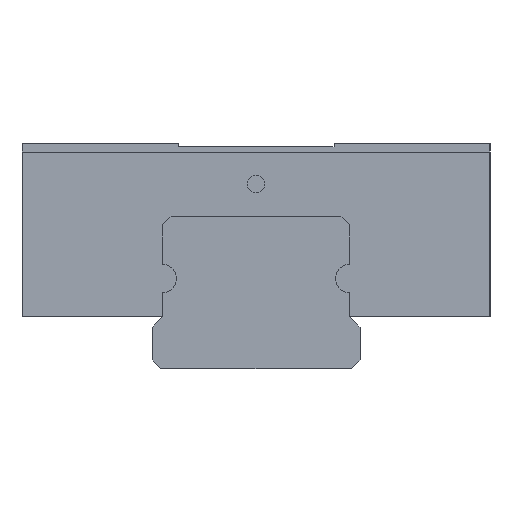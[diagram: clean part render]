
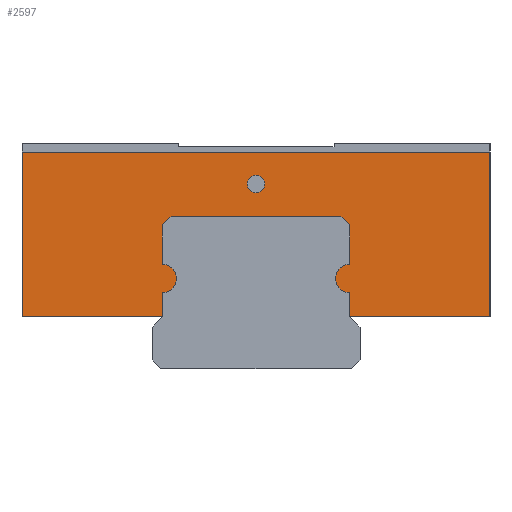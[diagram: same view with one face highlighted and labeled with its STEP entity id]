
A CAD part, left-side view. The second image highlights one B-rep face of the part: STEP entity #2597.
In plain terms, the highlighted planar face has unit normal (-1, 0, 0).
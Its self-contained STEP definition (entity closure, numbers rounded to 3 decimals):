
#1813=CARTESIAN_POINT('',(43.56,0.5,10.65));
#1814=VERTEX_POINT('',#1813);
#1815=CARTESIAN_POINT('',(43.56,0.0,10.65));
#1816=DIRECTION('',(1.0,0.0,0.0));
#1817=DIRECTION('',(0.0,-1.0,0.0));
#1818=AXIS2_PLACEMENT_3D('',#1815,#1816,#1817);
#1819=CIRCLE('',#1818,0.5);
#1820=EDGE_CURVE('',#1814,#1814,#1819,.T.);
#2086=CARTESIAN_POINT('',(43.56,13.5,12.5));
#2087=VERTEX_POINT('',#2086);
#2094=CARTESIAN_POINT('',(43.56,-13.5,12.5));
#2095=VERTEX_POINT('',#2094);
#2096=CARTESIAN_POINT('',(43.56,-13.5,12.5));
#2097=DIRECTION('',(0.0,1.0,0.0));
#2098=VECTOR('',#2097,27.);
#2099=LINE('',#2096,#2098);
#2100=EDGE_CURVE('',#2095,#2087,#2099,.T.);
#2155=CARTESIAN_POINT('',(43.56,13.5,3.));
#2156=VERTEX_POINT('',#2155);
#2163=CARTESIAN_POINT('',(43.56,13.5,12.5));
#2164=DIRECTION('',(0.0,0.0,-1.0));
#2165=VECTOR('',#2164,9.5);
#2166=LINE('',#2163,#2165);
#2167=EDGE_CURVE('',#2087,#2156,#2166,.T.);
#2190=CARTESIAN_POINT('',(43.56,5.4,3.));
#2191=VERTEX_POINT('',#2190);
#2198=CARTESIAN_POINT('',(43.56,13.5,3.));
#2199=DIRECTION('',(0.0,-1.0,0.0));
#2200=VECTOR('',#2199,8.1);
#2201=LINE('',#2198,#2200);
#2202=EDGE_CURVE('',#2156,#2191,#2201,.T.);
#2221=CARTESIAN_POINT('',(43.56,5.4,4.387));
#2222=VERTEX_POINT('',#2221);
#2229=CARTESIAN_POINT('',(43.56,5.4,3.));
#2230=DIRECTION('',(0.0,0.0,1.0));
#2231=VECTOR('',#2230,1.387);
#2232=LINE('',#2229,#2231);
#2233=EDGE_CURVE('',#2191,#2222,#2232,.T.);
#2253=CARTESIAN_POINT('',(43.56,5.4,6.012));
#2254=VERTEX_POINT('',#2253);
#2261=CARTESIAN_POINT('',(43.56,5.4,5.2));
#2262=DIRECTION('',(-1.0,0.0,0.0));
#2263=DIRECTION('',(0.0,0.0,-1.0));
#2264=AXIS2_PLACEMENT_3D('',#2261,#2262,#2263);
#2265=CIRCLE('',#2264,0.813);
#2266=EDGE_CURVE('',#2222,#2254,#2265,.T.);
#2285=CARTESIAN_POINT('',(43.56,5.4,8.3));
#2286=VERTEX_POINT('',#2285);
#2293=CARTESIAN_POINT('',(43.56,5.4,6.012));
#2294=DIRECTION('',(0.0,0.0,1.0));
#2295=VECTOR('',#2294,2.287);
#2296=LINE('',#2293,#2295);
#2297=EDGE_CURVE('',#2254,#2286,#2296,.T.);
#2316=CARTESIAN_POINT('',(43.56,4.9,8.8));
#2317=VERTEX_POINT('',#2316);
#2324=CARTESIAN_POINT('',(43.56,5.4,8.3));
#2325=DIRECTION('',(0.0,-0.707,0.707));
#2326=VECTOR('',#2325,0.707);
#2327=LINE('',#2324,#2326);
#2328=EDGE_CURVE('',#2286,#2317,#2327,.T.);
#2347=CARTESIAN_POINT('',(43.56,-4.9,8.8));
#2348=VERTEX_POINT('',#2347);
#2355=CARTESIAN_POINT('',(43.56,4.9,8.8));
#2356=DIRECTION('',(0.0,-1.0,0.0));
#2357=VECTOR('',#2356,9.8);
#2358=LINE('',#2355,#2357);
#2359=EDGE_CURVE('',#2317,#2348,#2358,.T.);
#2378=CARTESIAN_POINT('',(43.56,-5.4,8.3));
#2379=VERTEX_POINT('',#2378);
#2386=CARTESIAN_POINT('',(43.56,-4.9,8.8));
#2387=DIRECTION('',(0.0,-0.707,-0.707));
#2388=VECTOR('',#2387,0.707);
#2389=LINE('',#2386,#2388);
#2390=EDGE_CURVE('',#2348,#2379,#2389,.T.);
#2409=CARTESIAN_POINT('',(43.56,-5.4,6.012));
#2410=VERTEX_POINT('',#2409);
#2417=CARTESIAN_POINT('',(43.56,-5.4,8.3));
#2418=DIRECTION('',(0.0,0.0,-1.0));
#2419=VECTOR('',#2418,2.287);
#2420=LINE('',#2417,#2419);
#2421=EDGE_CURVE('',#2379,#2410,#2420,.T.);
#2441=CARTESIAN_POINT('',(43.56,-5.4,4.387));
#2442=VERTEX_POINT('',#2441);
#2449=CARTESIAN_POINT('',(43.56,-5.4,5.2));
#2450=DIRECTION('',(-1.0,0.0,0.0));
#2451=DIRECTION('',(0.0,0.0,1.0));
#2452=AXIS2_PLACEMENT_3D('',#2449,#2450,#2451);
#2453=CIRCLE('',#2452,0.813);
#2454=EDGE_CURVE('',#2410,#2442,#2453,.T.);
#2473=CARTESIAN_POINT('',(43.56,-5.4,3.));
#2474=VERTEX_POINT('',#2473);
#2481=CARTESIAN_POINT('',(43.56,-5.4,4.387));
#2482=DIRECTION('',(0.0,0.0,-1.0));
#2483=VECTOR('',#2482,1.387);
#2484=LINE('',#2481,#2483);
#2485=EDGE_CURVE('',#2442,#2474,#2484,.T.);
#2504=CARTESIAN_POINT('',(43.56,-13.5,3.));
#2505=VERTEX_POINT('',#2504);
#2512=CARTESIAN_POINT('',(43.56,-5.4,3.));
#2513=DIRECTION('',(0.0,-1.0,0.0));
#2514=VECTOR('',#2513,8.1);
#2515=LINE('',#2512,#2514);
#2516=EDGE_CURVE('',#2474,#2505,#2515,.T.);
#2538=CARTESIAN_POINT('',(43.56,-13.5,3.));
#2539=DIRECTION('',(0.0,0.0,1.0));
#2540=VECTOR('',#2539,9.5);
#2541=LINE('',#2538,#2540);
#2542=EDGE_CURVE('',#2505,#2095,#2541,.T.);
#2573=CARTESIAN_POINT('',(43.56,0.,8.166));
#2574=DIRECTION('',(1.0,0.0,0.0));
#2575=DIRECTION('',(0.0,0.0,-1.0));
#2576=AXIS2_PLACEMENT_3D('',#2573,#2574,#2575);
#2577=PLANE('',#2576);
#2578=ORIENTED_EDGE('',*,*,#2542,.T.);
#2579=ORIENTED_EDGE('',*,*,#2100,.T.);
#2580=ORIENTED_EDGE('',*,*,#2167,.T.);
#2581=ORIENTED_EDGE('',*,*,#2202,.T.);
#2582=ORIENTED_EDGE('',*,*,#2233,.T.);
#2583=ORIENTED_EDGE('',*,*,#2266,.T.);
#2584=ORIENTED_EDGE('',*,*,#2297,.T.);
#2585=ORIENTED_EDGE('',*,*,#2328,.T.);
#2586=ORIENTED_EDGE('',*,*,#2359,.T.);
#2587=ORIENTED_EDGE('',*,*,#2390,.T.);
#2588=ORIENTED_EDGE('',*,*,#2421,.T.);
#2589=ORIENTED_EDGE('',*,*,#2454,.T.);
#2590=ORIENTED_EDGE('',*,*,#2485,.T.);
#2591=ORIENTED_EDGE('',*,*,#2516,.T.);
#2592=EDGE_LOOP('',(#2578,#2579,#2580,#2581,#2582,#2583,#2584,#2585,#2586,#2587,#2588,#2589,#2590,#2591));
#2593=FACE_OUTER_BOUND('',#2592,.T.);
#2594=ORIENTED_EDGE('',*,*,#1820,.T.);
#2595=EDGE_LOOP('',(#2594));
#2596=FACE_BOUND('',#2595,.T.);
#2597=ADVANCED_FACE('',(#2593,#2596),#2577,.F.);
